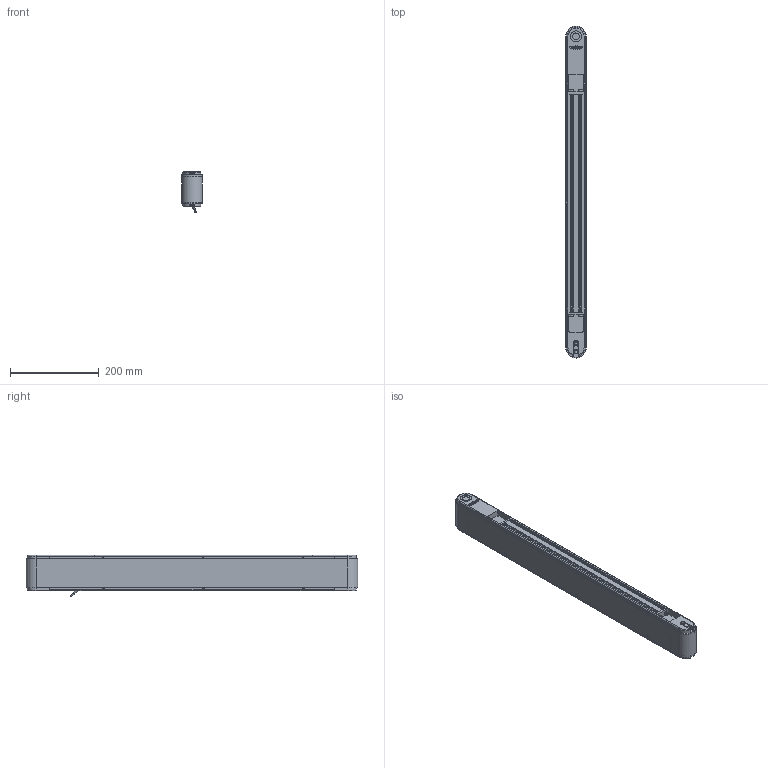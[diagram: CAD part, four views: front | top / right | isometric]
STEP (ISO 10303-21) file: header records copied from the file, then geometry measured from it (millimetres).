
FILE_DESCRIPTION(/* description */ (''),/* implementation_level */ '2;1');
FILE_NAME(/* name */ 'G:\DATEN\CAD\Förderband\Marketing\3D-Modelle (Standard)\FR-40-80\FR-40-80-700-K.stp',/* time_stamp */ '2019-05-08T08:18:05+02:00',/* author */ ('melanie.ochs'),/* organization */ (''),/* preprocessor_version */ 'ST-DEVELOPER v17',/* originating_system */ 'Autodesk Inventor 2019',/* authorisation */ '');
FILE_SCHEMA (('CONFIG_CONTROL_DESIGN'));
Length unit declared in the file: centimetre
Products named in the file (1): FR-40-80-700-K
Bounding box: 46.6 x 746.6 x 92.72 mm (x, y, z)
Volume: 1178889.3 mm3; surface area: 570082.1 mm2
Topology: 1 solids, 25 shells, 1023 faces, 2791 edges, 1862 vertices
Faces by surface type: plane 527, cylinder 281, bspline 122, cone 63, torus 30
Full cylindrical faces by diameter (mm): 1 x6, 4 x6, 4.3 x4, 4.64 x2, 4.917 x1, 5 x11, 5.5 x8, 6 x4, 6.773 x1, 8 x4, 8.3 x6, 8.5 x8, 8.773 x1, 10 x1, 11 x1, 12 x3, 15 x4, 20 x2, 25 x2, 28 x4
Entity records: 34909 total; most frequent: CARTESIAN_POINT 8294, ORIENTED_EDGE 5562, DIRECTION 5032, EDGE_CURVE 2781, VERTEX_POINT 1862, AXIS2_PLACEMENT_3D 1744, LINE 1544, VECTOR 1544
